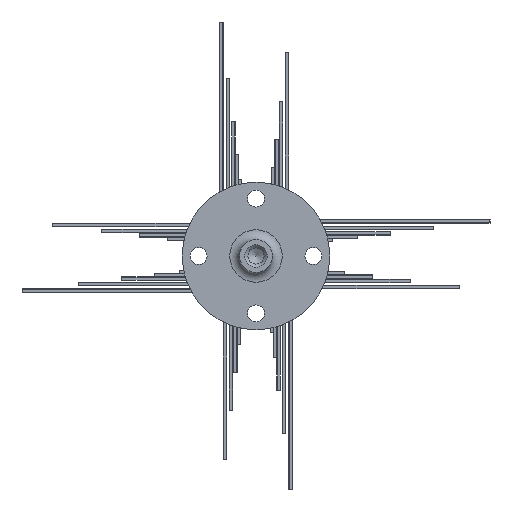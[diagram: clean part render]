
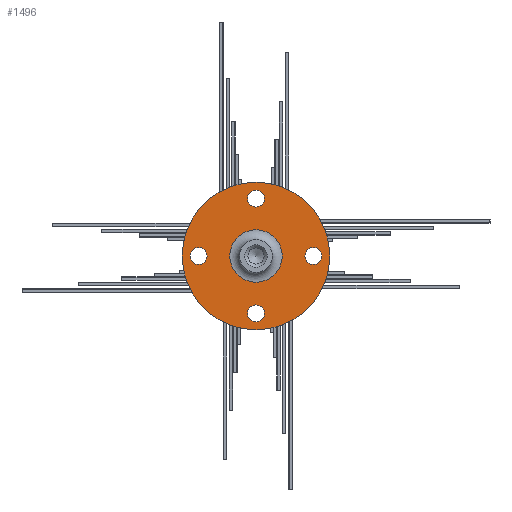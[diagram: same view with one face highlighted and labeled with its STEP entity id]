
A CAD part, front view. The second image highlights one B-rep face of the part: STEP entity #1496.
In plain terms, the highlighted planar face has unit normal (0, -1, 0) as drawn and (0, 0, 1) by its records, which use the part's own axes.
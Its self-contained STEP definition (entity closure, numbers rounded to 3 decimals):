
#1496=ADVANCED_FACE('',(#6648,#6650,#6652,#6654,#6656,#6658),#6660,.T.);
#6648=FACE_BOUND('',#6649,.T.);
#6649=EDGE_LOOP('',(#13815));
#6650=FACE_BOUND('',#6651,.T.);
#6651=EDGE_LOOP('',(#13816,#13817));
#6652=FACE_BOUND('',#6653,.T.);
#6653=EDGE_LOOP('',(#13818));
#6654=FACE_BOUND('',#6655,.T.);
#6655=EDGE_LOOP('',(#13819));
#6656=FACE_BOUND('',#6657,.T.);
#6657=EDGE_LOOP('',(#13820));
#6658=FACE_BOUND('',#6659,.T.);
#6659=EDGE_LOOP('',(#13821));
#6660=PLANE('',#6661);
#6661=AXIS2_PLACEMENT_3D('',#6662,#6663,#6664);
#6662=CARTESIAN_POINT('',(0.,0.,5.5));
#6663=DIRECTION('',(0.,0.,1.));
#6664=DIRECTION('',(1.,0.,0.));
#13815=ORIENTED_EDGE('',*,*,#16374,.T.);
#13816=ORIENTED_EDGE('',*,*,#16375,.F.);
#13817=ORIENTED_EDGE('',*,*,#16376,.F.);
#13818=ORIENTED_EDGE('',*,*,#16377,.T.);
#13819=ORIENTED_EDGE('',*,*,#16378,.T.);
#13820=ORIENTED_EDGE('',*,*,#16379,.T.);
#13821=ORIENTED_EDGE('',*,*,#16380,.T.);
#16374=EDGE_CURVE('',#17662,#17662,#17663,.T.);
#16375=EDGE_CURVE('',#17664,#17665,#17666,.T.);
#16376=EDGE_CURVE('',#17665,#17664,#17667,.T.);
#16377=EDGE_CURVE('',#17668,#17668,#17669,.F.);
#16378=EDGE_CURVE('',#17670,#17670,#17671,.F.);
#16379=EDGE_CURVE('',#17672,#17672,#17673,.F.);
#16380=EDGE_CURVE('',#17674,#17674,#17675,.F.);
#17662=VERTEX_POINT('',#19771);
#17663=CIRCLE('',#19772,22.5);
#17664=VERTEX_POINT('',#19776);
#17665=VERTEX_POINT('',#19777);
#17666=CIRCLE('',#19778,8.);
#17667=CIRCLE('',#19782,8.);
#17668=VERTEX_POINT('',#19786);
#17669=CIRCLE('',#19787,2.6);
#17670=VERTEX_POINT('',#19791);
#17671=CIRCLE('',#19792,2.6);
#17672=VERTEX_POINT('',#19796);
#17673=CIRCLE('',#19797,2.6);
#17674=VERTEX_POINT('',#19801);
#17675=CIRCLE('',#19802,2.6);
#19771=CARTESIAN_POINT('',(22.5,0.,5.5));
#19772=AXIS2_PLACEMENT_3D('',#19773,#19774,#19775);
#19773=CARTESIAN_POINT('',(0.,0.,5.5));
#19774=DIRECTION('',(0.,0.,1.));
#19775=DIRECTION('',(1.,0.,0.));
#19776=CARTESIAN_POINT('',(-8.,0.,5.5));
#19777=CARTESIAN_POINT('',(8.,0.,5.5));
#19778=AXIS2_PLACEMENT_3D('',#19779,#19780,#19781);
#19779=CARTESIAN_POINT('',(0.,0.,5.5));
#19780=DIRECTION('',(0.,0.,1.));
#19781=DIRECTION('',(-1.,0.,0.));
#19782=AXIS2_PLACEMENT_3D('',#19783,#19784,#19785);
#19783=CARTESIAN_POINT('',(0.,0.,5.5));
#19784=DIRECTION('',(0.,0.,1.));
#19785=DIRECTION('',(1.,0.,0.));
#19786=CARTESIAN_POINT('',(2.6,17.5,5.5));
#19787=AXIS2_PLACEMENT_3D('',#19788,#19789,#19790);
#19788=CARTESIAN_POINT('',(0.,17.5,5.5));
#19789=DIRECTION('',(0.,0.,1.));
#19790=DIRECTION('',(1.,0.,0.));
#19791=CARTESIAN_POINT('',(20.1,0.,5.5));
#19792=AXIS2_PLACEMENT_3D('',#19793,#19794,#19795);
#19793=CARTESIAN_POINT('',(17.5,0.,5.5));
#19794=DIRECTION('',(0.,0.,1.));
#19795=DIRECTION('',(1.,0.,0.));
#19796=CARTESIAN_POINT('',(2.6,-17.5,5.5));
#19797=AXIS2_PLACEMENT_3D('',#19798,#19799,#19800);
#19798=CARTESIAN_POINT('',(0.,-17.5,5.5));
#19799=DIRECTION('',(0.,0.,1.));
#19800=DIRECTION('',(1.,0.,0.));
#19801=CARTESIAN_POINT('',(-14.9,0.,5.5));
#19802=AXIS2_PLACEMENT_3D('',#19803,#19804,#19805);
#19803=CARTESIAN_POINT('',(-17.5,0.,5.5));
#19804=DIRECTION('',(0.,0.,1.));
#19805=DIRECTION('',(1.,0.,0.));
